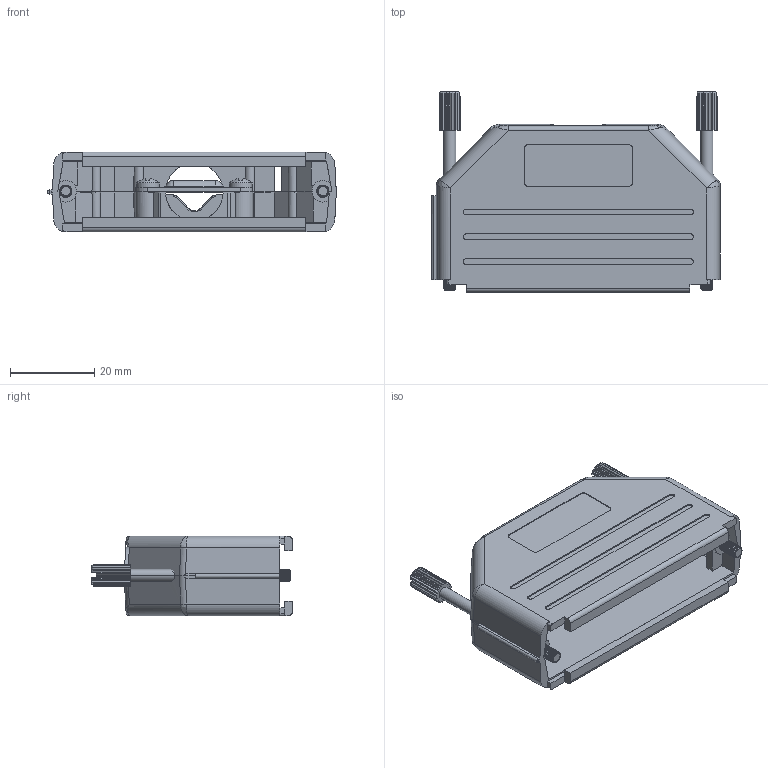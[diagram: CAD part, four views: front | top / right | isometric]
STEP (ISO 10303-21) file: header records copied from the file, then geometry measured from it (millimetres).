
FILE_DESCRIPTION (( 'STEP AP203' ), '1' );
FILE_NAME ('972-050-01SRYY1.STEP', '2026-06-12T14:32:48', ( '' ), ( '' ), 'SwSTEP 2.0', 'SolidWorks 2020', '' );
FILE_SCHEMA (( 'CONFIG_CONTROL_DESIGN' ));
Products named in the file (1): 972-050-01SRYY1
Bounding box: 68.6 x 47.75 x 19 mm (x, y, z)
Surface area: 17806.4 mm2 (no closed solid volume)
Topology: 0 solids, 10 shells, 1047 faces, 2883 edges, 1872 vertices
Faces by surface type: plane 559, cylinder 315, bspline 141, cone 32
Entity records: 55954 total; most frequent: CARTESIAN_POINT 32025, ORIENTED_EDGE 5654, DIRECTION 3795, EDGE_CURVE 2883, VERTEX_POINT 1872, VECTOR 1377, LINE 1377, AXIS2_PLACEMENT_3D 1209
